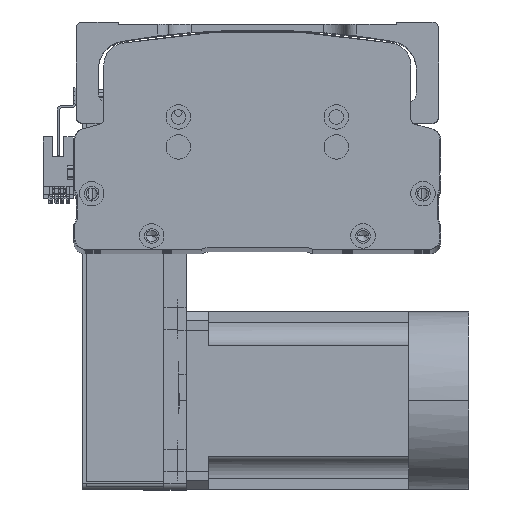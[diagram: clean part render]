
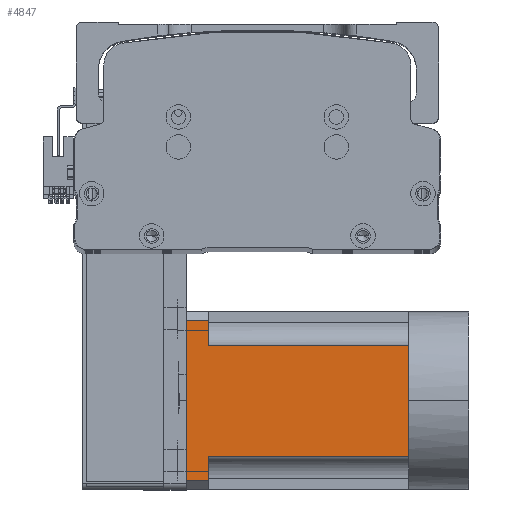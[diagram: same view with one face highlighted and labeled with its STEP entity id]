
A CAD part, top view. The second image highlights one B-rep face of the part: STEP entity #4847.
In plain terms, the highlighted planar face has unit normal (0, 0, 1) as drawn and (0, 0, -1) by its records, which use the part's own axes.
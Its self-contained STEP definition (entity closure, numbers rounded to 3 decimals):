
#624 = VECTOR ( 'NONE', #34767, 1000. ) ;
#4286 = LINE ( 'NONE', #18606, #56082 ) ;
#4847 = ADVANCED_FACE ( 'NONE', ( #24312 ), #11961, .T. ) ;
#5740 = EDGE_CURVE ( 'NONE', #33852, #61933, #35868, .T. ) ;
#8426 = DIRECTION ( 'NONE',  ( 0., -1., 0. ) ) ;
#9045 = CARTESIAN_POINT ( 'NONE',  ( 0., 0., -40. ) ) ;
#11009 = CARTESIAN_POINT ( 'NONE',  ( 36., 90., -40. ) ) ;
#11961 = PLANE ( 'NONE',  #19730 ) ;
#12162 = ORIENTED_EDGE ( 'NONE', *, *, #5740, .T. ) ;
#12538 = LINE ( 'NONE', #48753, #50922 ) ;
#14180 = VECTOR ( 'NONE', #29609, 1000. ) ;
#14312 = CARTESIAN_POINT ( 'NONE',  ( -40., 100., -40. ) ) ;
#15449 = ORIENTED_EDGE ( 'NONE', *, *, #46575, .T. ) ;
#16999 = DIRECTION ( 'NONE',  ( 0., 0., -1. ) ) ;
#18606 = CARTESIAN_POINT ( 'NONE',  ( 25., -27., -40. ) ) ;
#19154 = DIRECTION ( 'NONE',  ( -1., 0., 0. ) ) ;
#19357 = ORIENTED_EDGE ( 'NONE', *, *, #38946, .T. ) ;
#19730 = AXIS2_PLACEMENT_3D ( 'NONE', #41511, #16999, #52011 ) ;
#21684 = VERTEX_POINT ( 'NONE', #9045 ) ;
#22524 = VECTOR ( 'NONE', #8426, 1000. ) ;
#22947 = DIRECTION ( 'NONE',  ( 0., 1., 0. ) ) ;
#24312 = FACE_OUTER_BOUND ( 'NONE', #64832, .T. ) ;
#26238 = VERTEX_POINT ( 'NONE', #61434 ) ;
#26515 = VECTOR ( 'NONE', #19154, 1000. ) ;
#26604 = CARTESIAN_POINT ( 'NONE',  ( -36., -27., -40. ) ) ;
#27008 = ORIENTED_EDGE ( 'NONE', *, *, #54011, .T. ) ;
#28390 = CARTESIAN_POINT ( 'NONE',  ( 36., -27., -40. ) ) ;
#28701 = VECTOR ( 'NONE', #39290, 1000. ) ;
#29027 = CARTESIAN_POINT ( 'NONE',  ( -40., 0., -40. ) ) ;
#29055 = LINE ( 'NONE', #64594, #14180 ) ;
#29206 = LINE ( 'NONE', #52951, #42480 ) ;
#29443 = EDGE_CURVE ( 'NONE', #26238, #52329, #53928, .T. ) ;
#29609 = DIRECTION ( 'NONE',  ( -1., 0., 0. ) ) ;
#31630 = DIRECTION ( 'NONE',  ( 0., 1., 0. ) ) ;
#32231 = VECTOR ( 'NONE', #31630, 1000. ) ;
#32947 = EDGE_CURVE ( 'NONE', #33852, #49741, #41999, .T. ) ;
#33842 = DIRECTION ( 'NONE',  ( -1., 0., 0. ) ) ;
#33852 = VERTEX_POINT ( 'NONE', #41331 ) ;
#34767 = DIRECTION ( 'NONE',  ( -1., 0., 0. ) ) ;
#35415 = ORIENTED_EDGE ( 'NONE', *, *, #32947, .F. ) ;
#35868 = LINE ( 'NONE', #28390, #22524 ) ;
#38946 = EDGE_CURVE ( 'NONE', #53782, #26238, #29206, .T. ) ;
#39290 = DIRECTION ( 'NONE',  ( -1., 0., 0. ) ) ;
#41237 = ORIENTED_EDGE ( 'NONE', *, *, #62228, .T. ) ;
#41331 = CARTESIAN_POINT ( 'NONE',  ( 36., 100., -40. ) ) ;
#41511 = CARTESIAN_POINT ( 'NONE',  ( -40., -27., -40. ) ) ;
#41999 = LINE ( 'NONE', #14312, #28701 ) ;
#42480 = VECTOR ( 'NONE', #22947, 1000. ) ;
#46195 = CARTESIAN_POINT ( 'NONE',  ( 25., 0., -40. ) ) ;
#46341 = CARTESIAN_POINT ( 'NONE',  ( -36., 100., -40. ) ) ;
#46575 = EDGE_CURVE ( 'NONE', #63855, #21684, #12538, .T. ) ;
#47487 = ORIENTED_EDGE ( 'NONE', *, *, #48422, .T. ) ;
#47549 = ORIENTED_EDGE ( 'NONE', *, *, #29443, .T. ) ;
#48422 = EDGE_CURVE ( 'NONE', #21684, #53782, #53114, .T. ) ;
#48718 = CARTESIAN_POINT ( 'NONE',  ( -36., 90., -40. ) ) ;
#48753 = CARTESIAN_POINT ( 'NONE',  ( -40., 0., -40. ) ) ;
#49413 = EDGE_CURVE ( 'NONE', #56853, #63855, #4286, .T. ) ;
#49741 = VERTEX_POINT ( 'NONE', #46341 ) ;
#50922 = VECTOR ( 'NONE', #33842, 1000. ) ;
#52011 = DIRECTION ( 'NONE',  ( -1., 0., 0. ) ) ;
#52329 = VERTEX_POINT ( 'NONE', #48718 ) ;
#52951 = CARTESIAN_POINT ( 'NONE',  ( -25., -27., -40. ) ) ;
#53114 = LINE ( 'NONE', #29027, #26515 ) ;
#53754 = ORIENTED_EDGE ( 'NONE', *, *, #49413, .T. ) ;
#53782 = VERTEX_POINT ( 'NONE', #59646 ) ;
#53928 = LINE ( 'NONE', #64778, #624 ) ;
#54011 = EDGE_CURVE ( 'NONE', #52329, #49741, #58809, .T. ) ;
#54196 = CARTESIAN_POINT ( 'NONE',  ( 25., 90., -40. ) ) ;
#56082 = VECTOR ( 'NONE', #63673, 1000. ) ;
#56853 = VERTEX_POINT ( 'NONE', #54196 ) ;
#58809 = LINE ( 'NONE', #26604, #32231 ) ;
#59646 = CARTESIAN_POINT ( 'NONE',  ( -25., 0., -40. ) ) ;
#61434 = CARTESIAN_POINT ( 'NONE',  ( -25., 90., -40. ) ) ;
#61933 = VERTEX_POINT ( 'NONE', #11009 ) ;
#62228 = EDGE_CURVE ( 'NONE', #61933, #56853, #29055, .T. ) ;
#63673 = DIRECTION ( 'NONE',  ( 0., -1., 0. ) ) ;
#63855 = VERTEX_POINT ( 'NONE', #46195 ) ;
#64594 = CARTESIAN_POINT ( 'NONE',  ( -40., 90., -40. ) ) ;
#64778 = CARTESIAN_POINT ( 'NONE',  ( -40., 90., -40. ) ) ;
#64832 = EDGE_LOOP ( 'NONE', ( #35415, #12162, #41237, #53754, #15449, #47487, #19357, #47549, #27008 ) ) ;
